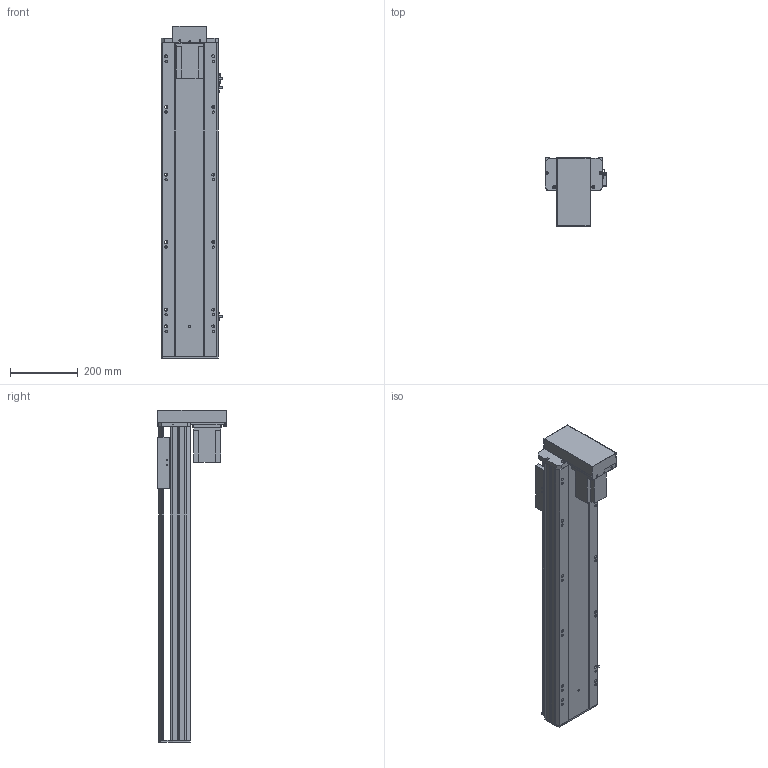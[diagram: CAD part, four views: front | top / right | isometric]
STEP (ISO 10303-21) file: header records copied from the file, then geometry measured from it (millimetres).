
FILE_DESCRIPTION (( 'STEP AP203' ), '1' );
FILE_NAME ('Y170-D10-S700-BM-P750W.STEP', '2020-01-22T03:04:49', ( '微软用户' ), ( '微软中国' ), 'SwSTEP 2.0', 'SolidWorks 2017', '' );
FILE_SCHEMA (( 'CONFIG_CONTROL_DESIGN' ));
Length unit declared in the file: millimetre
Products named in the file (12): EGH20賑輸_蕼偞; Y雄赽釱-耜蚾; Y170-陔遴奻裔-BR; 170-BM耜蚾蟀諉啣; Y170-BM--P750W楊擘啣; -BM俋袗; Y170耜裔--準---; YD-Y100-135-新外置传感挡片(通用）; 170--掛极-BR; Y100-135俋离換覜ん; 侂狟750W; Y170-D10-S700-BM-P750W
Assembly tree (14 placements, depth 2):
  Y170-D10-S700-BM-P750W
    Y170耜裔--準---
    170--掛极-BR
    侂狟750W
    EGH20賑輸_蕼偞  x2
    Y雄赽釱-耜蚾
    Y170-陔遴奻裔-BR
    170-BM耜蚾蟀諉啣
    Y170-BM--P750W楊擘啣
    -BM俋袗
    YD-Y100-135-新外置传感挡片(通用）
    Y100-135俋离換覜ん  x3
Bounding box: 183.5 x 203.5 x 983.5 mm (x, y, z)
Volume: 4939084.6 mm3; surface area: 1668323.4 mm2
Topology: 14 solids, 14 shells, 906 faces, 2556 edges, 1686 vertices
Faces by surface type: cylinder 454, plane 436, cone 16
Entity records: 28666 total; most frequent: CARTESIAN_POINT 5071, DIRECTION 4744, ORIENTED_EDGE 4608, EDGE_CURVE 2304, AXIS2_PLACEMENT_3D 1683, VERTEX_POINT 1530, VECTOR 1378, LINE 1378
